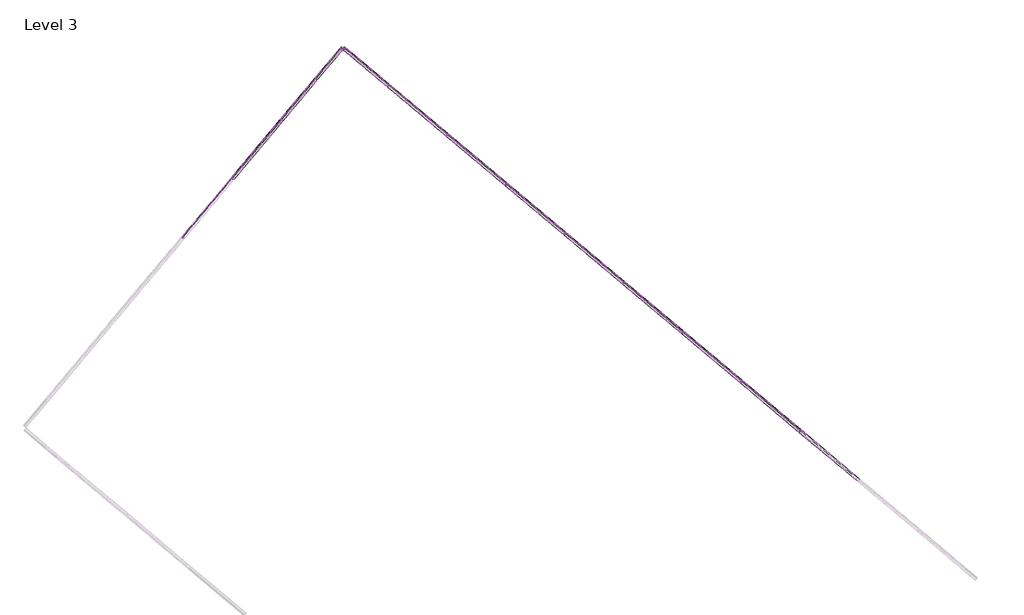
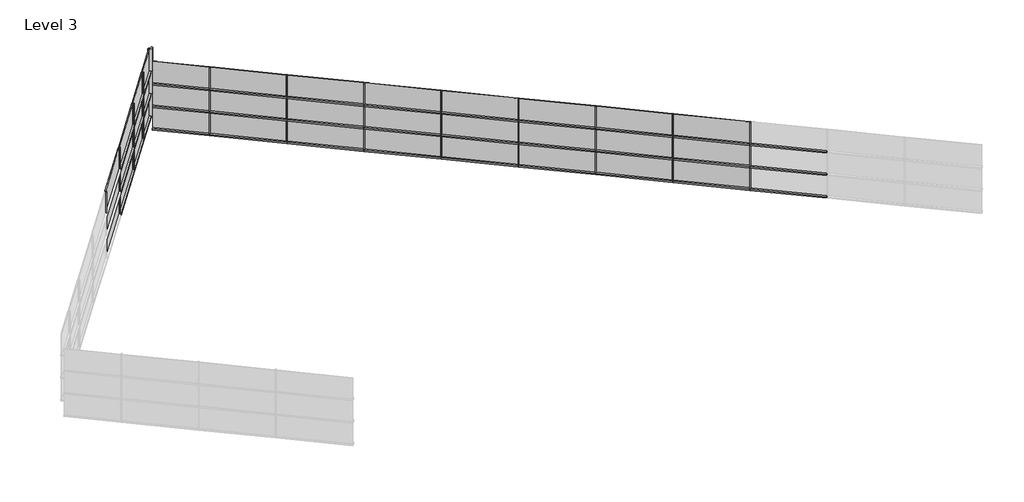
# One storey, part 4 of 4: 73 members, 36 plates.
"""IFC4 building model written with IfcOpenShell, lengths in millimetres."""

from ifc_helpers import new_model, si_unit, origin, place, context, project, spatial, transform, mapped, element, save
from components import member_e6b937b8, member_eaba9652, member_7cbddb58, member_117cba67, member_8e78e238, member_387caf8a, system_panel_glazed_a2c5a472, system_panel_glazed_ccf48815, system_panel_glazed_3c43611c, system_panel_glazed_c349e88e

model = new_model("IFC4")

# Units and contexts
model_context = context("Model", 3, world=origin())
ifc_project = project(units=[si_unit("LENGTHUNIT", "METRE", prefix="MILLI")], contexts=[model_context])

# Site, building, storey
site = spatial("IfcSite", under=ifc_project)
building = spatial("IfcBuilding", under=site)
storey = spatial("IfcBuildingStorey", under=building, Name="Level 3", Elevation=6096.0)

# Members
placement = place(None, origin())
member_shape = member_e6b937b8(model_context)
element("IfcMember", 1, ObjectType="Rectangular Mullion : 1.5\" x 2.5\" rectangular", at=placement, inside=storey, context=model_context, shape_type="MappedRepresentation", body=[
    mapped(member_shape, transform((-52757.790291, 39973.585519, 9954.4974171), x_axis=(0.6427876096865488, 0.7660444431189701, 0.0), y_axis=(-0.7660444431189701, 0.6427876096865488, 0.0), z_axis=(0.0, 0.0, 1.0))),
])
element("IfcMember", 2, ObjectType="Rectangular Mullion : 1.5\" x 2.5\" rectangular", at=placement, inside=storey, context=model_context, shape_type="MappedRepresentation", body=[
    mapped(member_shape, transform((-50798.5736567, 42308.4889816, 7820.8974171), x_axis=(0.6427876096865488, 0.7660444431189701, 0.0), y_axis=(-0.7660444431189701, 0.6427876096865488, 0.0), z_axis=(0.0, 0.0, 1.0))),
])
element("IfcMember", 3, ObjectType="Rectangular Mullion : 1.5\" x 2.5\" rectangular", at=placement, inside=storey, context=model_context, shape_type="MappedRepresentation", body=[
    mapped(member_shape, transform((-48839.3570224, 44643.3924442, 7820.8974171), x_axis=(0.6427876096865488, 0.7660444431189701, 0.0), y_axis=(-0.7660444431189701, 0.6427876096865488, 0.0), z_axis=(0.0, 0.0, 1.0))),
])
element("IfcMember", 4, ObjectType="Rectangular Mullion : 1.5\" x 2.5\" rectangular", at=placement, inside=storey, context=model_context, shape_type="MappedRepresentation", body=[
    mapped(member_shape, transform((-50798.5736567, 42308.4889816, 8887.6974171), x_axis=(0.6427876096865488, 0.7660444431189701, 0.0), y_axis=(-0.7660444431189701, 0.6427876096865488, 0.0), z_axis=(0.0, 0.0, 1.0))),
])
element("IfcMember", 5, ObjectType="Rectangular Mullion : 1.5\" x 2.5\" rectangular", at=placement, inside=storey, context=model_context, shape_type="MappedRepresentation", body=[
    mapped(member_shape, transform((-48839.3570224, 44643.3924442, 8887.6974171), x_axis=(0.6427876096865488, 0.7660444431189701, 0.0), y_axis=(-0.7660444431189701, 0.6427876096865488, 0.0), z_axis=(0.0, 0.0, 1.0))),
])
element("IfcMember", 6, ObjectType="Rectangular Mullion : 1.5\" x 2.5\" rectangular", at=placement, inside=storey, context=model_context, shape_type="MappedRepresentation", body=[
    mapped(member_shape, transform((-50798.5736567, 42308.4889816, 9954.4974171), x_axis=(0.6427876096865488, 0.7660444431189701, 0.0), y_axis=(-0.7660444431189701, 0.6427876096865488, 0.0), z_axis=(0.0, 0.0, 1.0))),
])
element("IfcMember", 7, ObjectType="Rectangular Mullion : 1.5\" x 2.5\" rectangular", at=placement, inside=storey, context=model_context, shape_type="MappedRepresentation", body=[
    mapped(member_shape, transform((-48839.3570224, 44643.3924442, 9954.4974171), x_axis=(0.6427876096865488, 0.7660444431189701, 0.0), y_axis=(-0.7660444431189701, 0.6427876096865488, 0.0), z_axis=(0.0, 0.0, 1.0))),
])
element("IfcMember", 8, ObjectType="Rectangular Mullion : 1.5\" x 2.5\" rectangular", at=placement, inside=storey, context=model_context, shape_type="MappedRepresentation", body=[
    mapped(member_shape, transform((-44606.1504378, 46018.2846161, 7200.3444177), x_axis=(0.76604444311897, -0.6427876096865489, 0.0), y_axis=(0.6427876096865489, 0.76604444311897, 0.0), z_axis=(0.0, 0.0, 1.0))),
])
element("IfcMember", 9, ObjectType="Rectangular Mullion : 1.5\" x 2.5\" rectangular", at=placement, inside=storey, context=model_context, shape_type="MappedRepresentation", body=[
    mapped(member_shape, transform((-42271.2469751, 44059.0679818, 7200.3444177), x_axis=(0.76604444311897, -0.6427876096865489, 0.0), y_axis=(0.6427876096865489, 0.76604444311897, 0.0), z_axis=(0.0, 0.0, 1.0))),
])
element("IfcMember", 10, ObjectType="Rectangular Mullion : 1.5\" x 2.5\" rectangular", at=placement, inside=storey, context=model_context, shape_type="MappedRepresentation", body=[
    mapped(member_shape, transform((-39936.3435125, 42099.8513475, 7200.3444177), x_axis=(0.76604444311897, -0.6427876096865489, 0.0), y_axis=(0.6427876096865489, 0.76604444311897, 0.0), z_axis=(0.0, 0.0, 1.0))),
])
element("IfcMember", 11, ObjectType="Rectangular Mullion : 1.5\" x 2.5\" rectangular", at=placement, inside=storey, context=model_context, shape_type="MappedRepresentation", body=[
    mapped(member_shape, transform((-37601.4400499, 40140.6347131, 7200.3444177), x_axis=(0.76604444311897, -0.6427876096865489, 0.0), y_axis=(0.6427876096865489, 0.76604444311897, 0.0), z_axis=(0.0, 0.0, 1.0))),
])
element("IfcMember", 12, ObjectType="Rectangular Mullion : 1.5\" x 2.5\" rectangular", at=placement, inside=storey, context=model_context, shape_type="MappedRepresentation", body=[
    mapped(member_shape, transform((-35266.5365873, 38181.4180788, 7200.3444177), x_axis=(0.76604444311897, -0.6427876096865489, 0.0), y_axis=(0.6427876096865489, 0.76604444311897, 0.0), z_axis=(0.0, 0.0, 1.0))),
])
element("IfcMember", 13, ObjectType="Rectangular Mullion : 1.5\" x 2.5\" rectangular", at=placement, inside=storey, context=model_context, shape_type="MappedRepresentation", body=[
    mapped(member_shape, transform((-32931.6331246, 36222.2014445, 7200.3444177), x_axis=(0.76604444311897, -0.6427876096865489, 0.0), y_axis=(0.6427876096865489, 0.76604444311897, 0.0), z_axis=(0.0, 0.0, 1.0))),
])
element("IfcMember", 14, ObjectType="Rectangular Mullion : 1.5\" x 2.5\" rectangular", at=placement, inside=storey, context=model_context, shape_type="MappedRepresentation", body=[
    mapped(member_shape, transform((-30596.729662, 34262.9848102, 7200.3444177), x_axis=(0.76604444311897, -0.6427876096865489, 0.0), y_axis=(0.6427876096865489, 0.76604444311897, 0.0), z_axis=(0.0, 0.0, 1.0))),
])
element("IfcMember", 15, ObjectType="Rectangular Mullion : 1.5\" x 2.5\" rectangular", at=placement, inside=storey, context=model_context, shape_type="MappedRepresentation", body=[
    mapped(member_shape, transform((-28261.8261994, 32303.7681758, 7200.3444177), x_axis=(0.76604444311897, -0.6427876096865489, 0.0), y_axis=(0.6427876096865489, 0.76604444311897, 0.0), z_axis=(0.0, 0.0, 1.0))),
])
element("IfcMember", 16, ObjectType="Rectangular Mullion : 1.5\" x 2.5\" rectangular", at=placement, inside=storey, context=model_context, shape_type="MappedRepresentation", body=[
    mapped(member_shape, transform((-44606.1504378, 46018.2846161, 8267.1444177), x_axis=(0.76604444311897, -0.6427876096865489, 0.0), y_axis=(0.6427876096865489, 0.76604444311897, 0.0), z_axis=(0.0, 0.0, 1.0))),
])
element("IfcMember", 17, ObjectType="Rectangular Mullion : 1.5\" x 2.5\" rectangular", at=placement, inside=storey, context=model_context, shape_type="MappedRepresentation", body=[
    mapped(member_shape, transform((-42271.2469751, 44059.0679818, 8267.1444177), x_axis=(0.76604444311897, -0.6427876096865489, 0.0), y_axis=(0.6427876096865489, 0.76604444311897, 0.0), z_axis=(0.0, 0.0, 1.0))),
])
element("IfcMember", 18, ObjectType="Rectangular Mullion : 1.5\" x 2.5\" rectangular", at=placement, inside=storey, context=model_context, shape_type="MappedRepresentation", body=[
    mapped(member_shape, transform((-39936.3435125, 42099.8513475, 8267.1444177), x_axis=(0.76604444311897, -0.6427876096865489, 0.0), y_axis=(0.6427876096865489, 0.76604444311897, 0.0), z_axis=(0.0, 0.0, 1.0))),
])
element("IfcMember", 19, ObjectType="Rectangular Mullion : 1.5\" x 2.5\" rectangular", at=placement, inside=storey, context=model_context, shape_type="MappedRepresentation", body=[
    mapped(member_shape, transform((-37601.4400499, 40140.6347131, 8267.1444177), x_axis=(0.76604444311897, -0.6427876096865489, 0.0), y_axis=(0.6427876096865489, 0.76604444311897, 0.0), z_axis=(0.0, 0.0, 1.0))),
])
element("IfcMember", 20, ObjectType="Rectangular Mullion : 1.5\" x 2.5\" rectangular", at=placement, inside=storey, context=model_context, shape_type="MappedRepresentation", body=[
    mapped(member_shape, transform((-35266.5365873, 38181.4180788, 8267.1444177), x_axis=(0.76604444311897, -0.6427876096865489, 0.0), y_axis=(0.6427876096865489, 0.76604444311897, 0.0), z_axis=(0.0, 0.0, 1.0))),
])
element("IfcMember", 21, ObjectType="Rectangular Mullion : 1.5\" x 2.5\" rectangular", at=placement, inside=storey, context=model_context, shape_type="MappedRepresentation", body=[
    mapped(member_shape, transform((-32931.6331246, 36222.2014445, 8267.1444177), x_axis=(0.76604444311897, -0.6427876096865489, 0.0), y_axis=(0.6427876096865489, 0.76604444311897, 0.0), z_axis=(0.0, 0.0, 1.0))),
])
element("IfcMember", 22, ObjectType="Rectangular Mullion : 1.5\" x 2.5\" rectangular", at=placement, inside=storey, context=model_context, shape_type="MappedRepresentation", body=[
    mapped(member_shape, transform((-30596.729662, 34262.9848102, 8267.1444177), x_axis=(0.76604444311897, -0.6427876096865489, 0.0), y_axis=(0.6427876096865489, 0.76604444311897, 0.0), z_axis=(0.0, 0.0, 1.0))),
])
element("IfcMember", 23, ObjectType="Rectangular Mullion : 1.5\" x 2.5\" rectangular", at=placement, inside=storey, context=model_context, shape_type="MappedRepresentation", body=[
    mapped(member_shape, transform((-28261.8261994, 32303.7681758, 8267.1444177), x_axis=(0.76604444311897, -0.6427876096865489, 0.0), y_axis=(0.6427876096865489, 0.76604444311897, 0.0), z_axis=(0.0, 0.0, 1.0))),
])
element("IfcMember", 24, ObjectType="Rectangular Mullion : 1.5\" x 2.5\" rectangular", at=placement, inside=storey, context=model_context, shape_type="MappedRepresentation", body=[
    mapped(member_shape, transform((-44606.1504378, 46018.2846161, 9333.9444177), x_axis=(0.76604444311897, -0.6427876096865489, 0.0), y_axis=(0.6427876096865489, 0.76604444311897, 0.0), z_axis=(0.0, 0.0, 1.0))),
])
element("IfcMember", 25, ObjectType="Rectangular Mullion : 1.5\" x 2.5\" rectangular", at=placement, inside=storey, context=model_context, shape_type="MappedRepresentation", body=[
    mapped(member_shape, transform((-42271.2469751, 44059.0679818, 9333.9444177), x_axis=(0.76604444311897, -0.6427876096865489, 0.0), y_axis=(0.6427876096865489, 0.76604444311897, 0.0), z_axis=(0.0, 0.0, 1.0))),
])
element("IfcMember", 26, ObjectType="Rectangular Mullion : 1.5\" x 2.5\" rectangular", at=placement, inside=storey, context=model_context, shape_type="MappedRepresentation", body=[
    mapped(member_shape, transform((-39936.3435125, 42099.8513475, 9333.9444177), x_axis=(0.76604444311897, -0.6427876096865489, 0.0), y_axis=(0.6427876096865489, 0.76604444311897, 0.0), z_axis=(0.0, 0.0, 1.0))),
])
element("IfcMember", 27, ObjectType="Rectangular Mullion : 1.5\" x 2.5\" rectangular", at=placement, inside=storey, context=model_context, shape_type="MappedRepresentation", body=[
    mapped(member_shape, transform((-37601.4400499, 40140.6347131, 9333.9444177), x_axis=(0.76604444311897, -0.6427876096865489, 0.0), y_axis=(0.6427876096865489, 0.76604444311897, 0.0), z_axis=(0.0, 0.0, 1.0))),
])
element("IfcMember", 28, ObjectType="Rectangular Mullion : 1.5\" x 2.5\" rectangular", at=placement, inside=storey, context=model_context, shape_type="MappedRepresentation", body=[
    mapped(member_shape, transform((-35266.5365873, 38181.4180788, 9333.9444177), x_axis=(0.76604444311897, -0.6427876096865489, 0.0), y_axis=(0.6427876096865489, 0.76604444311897, 0.0), z_axis=(0.0, 0.0, 1.0))),
])
element("IfcMember", 29, ObjectType="Rectangular Mullion : 1.5\" x 2.5\" rectangular", at=placement, inside=storey, context=model_context, shape_type="MappedRepresentation", body=[
    mapped(member_shape, transform((-32931.6331246, 36222.2014445, 9333.9444177), x_axis=(0.76604444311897, -0.6427876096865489, 0.0), y_axis=(0.6427876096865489, 0.76604444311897, 0.0), z_axis=(0.0, 0.0, 1.0))),
])
element("IfcMember", 30, ObjectType="Rectangular Mullion : 1.5\" x 2.5\" rectangular", at=placement, inside=storey, context=model_context, shape_type="MappedRepresentation", body=[
    mapped(member_shape, transform((-30596.729662, 34262.9848102, 9333.9444177), x_axis=(0.76604444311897, -0.6427876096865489, 0.0), y_axis=(0.6427876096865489, 0.76604444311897, 0.0), z_axis=(0.0, 0.0, 1.0))),
])
element("IfcMember", 31, ObjectType="Rectangular Mullion : 1.5\" x 2.5\" rectangular", at=placement, inside=storey, context=model_context, shape_type="MappedRepresentation", body=[
    mapped(member_shape, transform((-28261.8261994, 32303.7681758, 9333.9444177), x_axis=(0.76604444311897, -0.6427876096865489, 0.0), y_axis=(0.6427876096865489, 0.76604444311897, 0.0), z_axis=(0.0, 0.0, 1.0))),
])
element("IfcMember", 32, ObjectType="Rectangular Mullion : 1.5\" x 2.5\" rectangular", at=placement, inside=storey, context=model_context, shape_type="MappedRepresentation", body=[
    mapped(member_shape, transform((-47467.9053784, 46277.8248681, 7820.8974171), x_axis=(0.6427876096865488, 0.7660444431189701, 0.0), y_axis=(-0.7660444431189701, 0.6427876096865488, 0.0), z_axis=(0.0, 0.0, 1.0))),
])
element("IfcMember", 33, ObjectType="Rectangular Mullion : 1.5\" x 2.5\" rectangular", at=placement, inside=storey, context=model_context, shape_type="MappedRepresentation", body=[
    mapped(member_shape, transform((-47467.9053784, 46277.8248681, 8887.6974171), x_axis=(0.6427876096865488, 0.7660444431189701, 0.0), y_axis=(-0.7660444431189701, 0.6427876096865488, 0.0), z_axis=(0.0, 0.0, 1.0))),
])
element("IfcMember", 34, ObjectType="Rectangular Mullion : 1.5\" x 2.5\" rectangular", at=placement, inside=storey, context=model_context, shape_type="MappedRepresentation", body=[
    mapped(member_shape, transform((-47467.9053784, 46277.8248681, 9954.4974171), x_axis=(0.6427876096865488, 0.7660444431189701, 0.0), y_axis=(-0.7660444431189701, 0.6427876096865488, 0.0), z_axis=(0.0, 0.0, 1.0))),
])
member_2_shape = member_eaba9652(model_context)
element("IfcMember", 35, ObjectType="Rectangular Mullion : 2.5\" x 5\" rectangular", at=placement, inside=storey, context=model_context, shape_type="MappedRepresentation", body=[
    mapped(member_2_shape, transform((-50798.5736567, 42308.4889816, 6785.8474171), x_axis=(0.0, 0.0, 1.0), y_axis=(-0.766044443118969, 0.64278760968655, 0.0), z_axis=(-0.64278760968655, -0.766044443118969, 0.0))),
])
element("IfcMember", 36, ObjectType="Rectangular Mullion : 2.5\" x 5\" rectangular", at=placement, inside=storey, context=model_context, shape_type="MappedRepresentation", body=[
    mapped(member_2_shape, transform((-50798.5736567, 42308.4889816, 7852.6474171), x_axis=(0.0, 0.0, 1.0), y_axis=(-0.766044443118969, 0.64278760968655, 0.0), z_axis=(-0.64278760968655, -0.766044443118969, 0.0))),
])
element("IfcMember", 37, ObjectType="Rectangular Mullion : 2.5\" x 5\" rectangular", at=placement, inside=storey, context=model_context, shape_type="MappedRepresentation", body=[
    mapped(member_2_shape, transform((-50798.5736567, 42308.4889816, 8919.4474171), x_axis=(0.0, 0.0, 1.0), y_axis=(-0.766044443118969, 0.64278760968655, 0.0), z_axis=(-0.64278760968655, -0.766044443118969, 0.0))),
])
element("IfcMember", 38, ObjectType="Rectangular Mullion : 2.5\" x 5\" rectangular", at=placement, inside=storey, context=model_context, shape_type="MappedRepresentation", body=[
    mapped(member_2_shape, transform((-44606.1504378, 46018.2846161, 6165.2944177), x_axis=(0.0, 0.0, 1.0), y_axis=(0.6427876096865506, 0.7660444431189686, 0.0), z_axis=(-0.7660444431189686, 0.6427876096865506, 0.0))),
])
element("IfcMember", 39, ObjectType="Rectangular Mullion : 2.5\" x 5\" rectangular", at=placement, inside=storey, context=model_context, shape_type="MappedRepresentation", body=[
    mapped(member_2_shape, transform((-42271.2469751, 44059.0679818, 6165.2944177), x_axis=(0.0, 0.0, 1.0), y_axis=(0.6427876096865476, 0.7660444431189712, 0.0), z_axis=(-0.7660444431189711, 0.6427876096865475, 0.0))),
])
element("IfcMember", 40, ObjectType="Rectangular Mullion : 2.5\" x 5\" rectangular", at=placement, inside=storey, context=model_context, shape_type="MappedRepresentation", body=[
    mapped(member_2_shape, transform((-39936.3435125, 42099.8513475, 6165.2944177), x_axis=(0.0, 0.0, 1.0), y_axis=(0.6427876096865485, 0.7660444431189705, 0.0), z_axis=(-0.7660444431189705, 0.6427876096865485, 0.0))),
])
element("IfcMember", 41, ObjectType="Rectangular Mullion : 2.5\" x 5\" rectangular", at=placement, inside=storey, context=model_context, shape_type="MappedRepresentation", body=[
    mapped(member_2_shape, transform((-37601.4400499, 40140.6347131, 6165.2944177), x_axis=(0.0, 0.0, 1.0), y_axis=(0.642787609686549, 0.76604444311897, 0.0), z_axis=(-0.7660444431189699, 0.6427876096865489, 0.0))),
])
element("IfcMember", 42, ObjectType="Rectangular Mullion : 2.5\" x 5\" rectangular", at=placement, inside=storey, context=model_context, shape_type="MappedRepresentation", body=[
    mapped(member_2_shape, transform((-35266.5365873, 38181.4180788, 6165.2944177), x_axis=(0.0, 0.0, 1.0), y_axis=(0.6427876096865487, 0.7660444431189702, 0.0), z_axis=(-0.7660444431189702, 0.6427876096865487, 0.0))),
])
element("IfcMember", 43, ObjectType="Rectangular Mullion : 2.5\" x 5\" rectangular", at=placement, inside=storey, context=model_context, shape_type="MappedRepresentation", body=[
    mapped(member_2_shape, transform((-32931.6331246, 36222.2014445, 6165.2944177), x_axis=(0.0, 0.0, 1.0), y_axis=(0.6427876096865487, 0.7660444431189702, 0.0), z_axis=(-0.7660444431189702, 0.6427876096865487, 0.0))),
])
element("IfcMember", 44, ObjectType="Rectangular Mullion : 2.5\" x 5\" rectangular", at=placement, inside=storey, context=model_context, shape_type="MappedRepresentation", body=[
    mapped(member_2_shape, transform((-30596.729662, 34262.9848102, 6165.2944177), x_axis=(0.0, 0.0, 1.0), y_axis=(0.6427876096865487, 0.7660444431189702, 0.0), z_axis=(-0.7660444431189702, 0.6427876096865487, 0.0))),
])
element("IfcMember", 45, ObjectType="Rectangular Mullion : 2.5\" x 5\" rectangular", at=placement, inside=storey, context=model_context, shape_type="MappedRepresentation", body=[
    mapped(member_2_shape, transform((-28261.8261994, 32303.7681758, 6165.2944177), x_axis=(0.0, 0.0, 1.0), y_axis=(0.6427876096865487, 0.7660444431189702, 0.0), z_axis=(-0.7660444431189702, 0.6427876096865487, 0.0))),
])
element("IfcMember", 46, ObjectType="Rectangular Mullion : 2.5\" x 5\" rectangular", at=placement, inside=storey, context=model_context, shape_type="MappedRepresentation", body=[
    mapped(member_2_shape, transform((-44606.1504378, 46018.2846161, 7232.0944177), x_axis=(0.0, 0.0, 1.0), y_axis=(0.6427876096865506, 0.7660444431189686, 0.0), z_axis=(-0.7660444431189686, 0.6427876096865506, 0.0))),
])
element("IfcMember", 47, ObjectType="Rectangular Mullion : 2.5\" x 5\" rectangular", at=placement, inside=storey, context=model_context, shape_type="MappedRepresentation", body=[
    mapped(member_2_shape, transform((-42271.2469751, 44059.0679818, 7232.0944177), x_axis=(0.0, 0.0, 1.0), y_axis=(0.6427876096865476, 0.7660444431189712, 0.0), z_axis=(-0.7660444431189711, 0.6427876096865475, 0.0))),
])
element("IfcMember", 48, ObjectType="Rectangular Mullion : 2.5\" x 5\" rectangular", at=placement, inside=storey, context=model_context, shape_type="MappedRepresentation", body=[
    mapped(member_2_shape, transform((-39936.3435125, 42099.8513475, 7232.0944177), x_axis=(0.0, 0.0, 1.0), y_axis=(0.6427876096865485, 0.7660444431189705, 0.0), z_axis=(-0.7660444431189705, 0.6427876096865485, 0.0))),
])
element("IfcMember", 49, ObjectType="Rectangular Mullion : 2.5\" x 5\" rectangular", at=placement, inside=storey, context=model_context, shape_type="MappedRepresentation", body=[
    mapped(member_2_shape, transform((-37601.4400499, 40140.6347131, 7232.0944177), x_axis=(0.0, 0.0, 1.0), y_axis=(0.642787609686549, 0.76604444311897, 0.0), z_axis=(-0.7660444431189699, 0.6427876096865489, 0.0))),
])
element("IfcMember", 50, ObjectType="Rectangular Mullion : 2.5\" x 5\" rectangular", at=placement, inside=storey, context=model_context, shape_type="MappedRepresentation", body=[
    mapped(member_2_shape, transform((-35266.5365873, 38181.4180788, 7232.0944177), x_axis=(0.0, 0.0, 1.0), y_axis=(0.6427876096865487, 0.7660444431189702, 0.0), z_axis=(-0.7660444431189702, 0.6427876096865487, 0.0))),
])
element("IfcMember", 51, ObjectType="Rectangular Mullion : 2.5\" x 5\" rectangular", at=placement, inside=storey, context=model_context, shape_type="MappedRepresentation", body=[
    mapped(member_2_shape, transform((-32931.6331246, 36222.2014445, 7232.0944177), x_axis=(0.0, 0.0, 1.0), y_axis=(0.642787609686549, 0.76604444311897, 0.0), z_axis=(-0.7660444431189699, 0.6427876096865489, 0.0))),
])
element("IfcMember", 52, ObjectType="Rectangular Mullion : 2.5\" x 5\" rectangular", at=placement, inside=storey, context=model_context, shape_type="MappedRepresentation", body=[
    mapped(member_2_shape, transform((-30596.729662, 34262.9848102, 7232.0944177), x_axis=(0.0, 0.0, 1.0), y_axis=(0.6427876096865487, 0.7660444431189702, 0.0), z_axis=(-0.7660444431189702, 0.6427876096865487, 0.0))),
])
element("IfcMember", 53, ObjectType="Rectangular Mullion : 2.5\" x 5\" rectangular", at=placement, inside=storey, context=model_context, shape_type="MappedRepresentation", body=[
    mapped(member_2_shape, transform((-28261.8261994, 32303.7681758, 7232.0944177), x_axis=(0.0, 0.0, 1.0), y_axis=(0.6427876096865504, 0.7660444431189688, 0.0), z_axis=(-0.7660444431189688, 0.6427876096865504, 0.0))),
])
element("IfcMember", 54, ObjectType="Rectangular Mullion : 2.5\" x 5\" rectangular", at=placement, inside=storey, context=model_context, shape_type="MappedRepresentation", body=[
    mapped(member_2_shape, transform((-44606.1504378, 46018.2846161, 8298.8944177), x_axis=(0.0, 0.0, 1.0), y_axis=(0.6427876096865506, 0.7660444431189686, 0.0), z_axis=(-0.7660444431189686, 0.6427876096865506, 0.0))),
])
element("IfcMember", 55, ObjectType="Rectangular Mullion : 2.5\" x 5\" rectangular", at=placement, inside=storey, context=model_context, shape_type="MappedRepresentation", body=[
    mapped(member_2_shape, transform((-42271.2469751, 44059.0679818, 8298.8944177), x_axis=(0.0, 0.0, 1.0), y_axis=(0.6427876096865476, 0.7660444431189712, 0.0), z_axis=(-0.7660444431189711, 0.6427876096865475, 0.0))),
])
element("IfcMember", 56, ObjectType="Rectangular Mullion : 2.5\" x 5\" rectangular", at=placement, inside=storey, context=model_context, shape_type="MappedRepresentation", body=[
    mapped(member_2_shape, transform((-39936.3435125, 42099.8513475, 8298.8944177), x_axis=(0.0, 0.0, 1.0), y_axis=(0.6427876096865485, 0.7660444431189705, 0.0), z_axis=(-0.7660444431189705, 0.6427876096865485, 0.0))),
])
element("IfcMember", 57, ObjectType="Rectangular Mullion : 2.5\" x 5\" rectangular", at=placement, inside=storey, context=model_context, shape_type="MappedRepresentation", body=[
    mapped(member_2_shape, transform((-37601.4400499, 40140.6347131, 8298.8944177), x_axis=(0.0, 0.0, 1.0), y_axis=(0.642787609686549, 0.76604444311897, 0.0), z_axis=(-0.7660444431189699, 0.6427876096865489, 0.0))),
])
element("IfcMember", 58, ObjectType="Rectangular Mullion : 2.5\" x 5\" rectangular", at=placement, inside=storey, context=model_context, shape_type="MappedRepresentation", body=[
    mapped(member_2_shape, transform((-35266.5365873, 38181.4180788, 8298.8944177), x_axis=(0.0, 0.0, 1.0), y_axis=(0.6427876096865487, 0.7660444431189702, 0.0), z_axis=(-0.7660444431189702, 0.6427876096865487, 0.0))),
])
element("IfcMember", 59, ObjectType="Rectangular Mullion : 2.5\" x 5\" rectangular", at=placement, inside=storey, context=model_context, shape_type="MappedRepresentation", body=[
    mapped(member_2_shape, transform((-32931.6331246, 36222.2014445, 8298.8944177), x_axis=(0.0, 0.0, 1.0), y_axis=(0.6427876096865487, 0.7660444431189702, 0.0), z_axis=(-0.7660444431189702, 0.6427876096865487, 0.0))),
])
element("IfcMember", 60, ObjectType="Rectangular Mullion : 2.5\" x 5\" rectangular", at=placement, inside=storey, context=model_context, shape_type="MappedRepresentation", body=[
    mapped(member_2_shape, transform((-30596.729662, 34262.9848102, 8298.8944177), x_axis=(0.0, 0.0, 1.0), y_axis=(0.6427876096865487, 0.7660444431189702, 0.0), z_axis=(-0.7660444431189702, 0.6427876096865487, 0.0))),
])
element("IfcMember", 61, ObjectType="Rectangular Mullion : 2.5\" x 5\" rectangular", at=placement, inside=storey, context=model_context, shape_type="MappedRepresentation", body=[
    mapped(member_2_shape, transform((-28261.8261994, 32303.7681758, 8298.8944177), x_axis=(0.0, 0.0, 1.0), y_axis=(0.6427876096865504, 0.7660444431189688, 0.0), z_axis=(-0.7660444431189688, 0.6427876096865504, 0.0))),
])
member_3_shape = member_7cbddb58(model_context)
element("IfcMember", 62, ObjectType="Rectangular Mullion : 2.5\" x 5\" rectangular", at=placement, inside=storey, context=model_context, shape_type="MappedRepresentation", body=[
    mapped(member_3_shape, transform((-48839.3570224, 44643.3924442, 6785.8474171), x_axis=(0.0, 0.0, 1.0), y_axis=(-0.766044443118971, 0.6427876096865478, 0.0), z_axis=(-0.6427876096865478, -0.766044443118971, 0.0))),
])
element("IfcMember", 63, ObjectType="Rectangular Mullion : 2.5\" x 5\" rectangular", at=placement, inside=storey, context=model_context, shape_type="MappedRepresentation", body=[
    mapped(member_3_shape, transform((-48839.3570224, 44643.3924442, 7852.6474171), x_axis=(0.0, 0.0, 1.0), y_axis=(-0.766044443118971, 0.6427876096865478, 0.0), z_axis=(-0.6427876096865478, -0.766044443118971, 0.0))),
])
element("IfcMember", 64, ObjectType="Rectangular Mullion : 2.5\" x 5\" rectangular", at=placement, inside=storey, context=model_context, shape_type="MappedRepresentation", body=[
    mapped(member_3_shape, transform((-48839.3570224, 44643.3924442, 8919.4474171), x_axis=(0.0, 0.0, 1.0), y_axis=(-0.766044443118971, 0.6427876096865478, 0.0), z_axis=(-0.6427876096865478, -0.766044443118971, 0.0))),
])
member_4_shape = member_117cba67(model_context)
element("IfcMember", 65, ObjectType="Rectangular Mullion : 2.5\" x 5\" rectangular", at=placement, inside=storey, context=model_context, shape_type="MappedRepresentation", body=[
    mapped(member_4_shape, transform((-47467.9053784, 46277.8248681, 6785.8474171), x_axis=(0.0, 0.0, 1.0), y_axis=(-0.7660444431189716, 0.6427876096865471, 0.0), z_axis=(-0.6427876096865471, -0.7660444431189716, 0.0))),
])
element("IfcMember", 66, ObjectType="Rectangular Mullion : 2.5\" x 5\" rectangular", at=placement, inside=storey, context=model_context, shape_type="MappedRepresentation", body=[
    mapped(member_4_shape, transform((-47467.9053784, 46277.8248681, 7852.6474171), x_axis=(0.0, 0.0, 1.0), y_axis=(-0.7660444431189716, 0.6427876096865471, 0.0), z_axis=(-0.6427876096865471, -0.7660444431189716, 0.0))),
])
element("IfcMember", 67, ObjectType="Rectangular Mullion : 2.5\" x 5\" rectangular", at=placement, inside=storey, context=model_context, shape_type="MappedRepresentation", body=[
    mapped(member_4_shape, transform((-47467.9053784, 46277.8248681, 8919.4474171), x_axis=(0.0, 0.0, 1.0), y_axis=(-0.7660444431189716, 0.6427876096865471, 0.0), z_axis=(-0.6427876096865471, -0.7660444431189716, 0.0))),
])
member_5_shape = member_8e78e238(model_context)
element("IfcMember", 68, ObjectType="Rectangular Mullion : 2.5\" x 5\" rectangular", at=placement, inside=storey, context=model_context, shape_type="MappedRepresentation", body=[
    mapped(member_5_shape, transform((-46340.3300662, 47473.4341027, 6165.2944177), x_axis=(0.0, 0.0, 1.0), y_axis=(0.6427876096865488, 0.76604444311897, 0.0), z_axis=(-0.76604444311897, 0.6427876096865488, 0.0))),
])
element("IfcMember", 69, ObjectType="Rectangular Mullion : 2.5\" x 5\" rectangular", at=placement, inside=storey, context=model_context, shape_type="MappedRepresentation", body=[
    mapped(member_5_shape, transform((-46340.3300662, 47473.4341027, 7232.0944177), x_axis=(0.0, 0.0, 1.0), y_axis=(0.6427876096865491, 0.7660444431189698, 0.0), z_axis=(-0.7660444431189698, 0.6427876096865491, 0.0))),
])
element("IfcMember", 70, ObjectType="Rectangular Mullion : 2.5\" x 5\" rectangular", at=placement, inside=storey, context=model_context, shape_type="MappedRepresentation", body=[
    mapped(member_5_shape, transform((-46340.3300662, 47473.4341027, 8298.8944177), x_axis=(0.0, 0.0, 1.0), y_axis=(0.6427876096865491, 0.7660444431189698, 0.0), z_axis=(-0.7660444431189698, 0.6427876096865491, 0.0))),
])
member_6_shape = member_387caf8a(model_context)
element("IfcMember", 71, ObjectType="V Corner Mullion : 5\" V Corner", at=placement, inside=storey, context=model_context, shape_type="MappedRepresentation", body=[
    mapped(member_6_shape, transform((-46413.2957994, 47534.6596226, 7852.6474171), x_axis=(0.6427876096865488, 0.7660444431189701, 0.0), y_axis=(-0.7660444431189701, 0.6427876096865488, 0.0), z_axis=(0.0, 0.0, 1.0))),
])
element("IfcMember", 72, ObjectType="V Corner Mullion : 5\" V Corner", at=placement, inside=storey, context=model_context, shape_type="MappedRepresentation", body=[
    mapped(member_6_shape, transform((-46413.2957994, 47534.6596226, 8919.4474171), x_axis=(0.6427876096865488, 0.7660444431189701, 0.0), y_axis=(-0.7660444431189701, 0.6427876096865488, 0.0), z_axis=(0.0, 0.0, 1.0))),
])
element("IfcMember", 73, ObjectType="V Corner Mullion : 5\" V Corner", at=placement, inside=storey, context=model_context, shape_type="MappedRepresentation", body=[
    mapped(member_6_shape, transform((-46413.2957994, 47534.6596226, 9986.2474171), x_axis=(0.6427876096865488, 0.7660444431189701, 0.0), y_axis=(-0.7660444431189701, 0.6427876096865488, 0.0), z_axis=(0.0, 0.0, 1.0))),
])

# Plates
system_panel_glazed_shape = system_panel_glazed_a2c5a472(model_context)
element("IfcPlate", 74, ObjectType="System Panel : Glazed", at=placement, inside=storey, context=model_context, shape_type="MappedRepresentation", body=[
    mapped(system_panel_glazed_shape, transform((-43438.6987064, 45038.6762989, 6197.0444177), x_axis=(0.76604444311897, -0.6427876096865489, 0.0), y_axis=(0.6427876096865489, 0.76604444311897, 0.0), z_axis=(0.0, 0.0, 1.0))),
])
element("IfcPlate", 75, ObjectType="System Panel : Glazed", at=placement, inside=storey, context=model_context, shape_type="MappedRepresentation", body=[
    mapped(system_panel_glazed_shape, transform((-41103.7952438, 43079.4596646, 6197.0444177), x_axis=(0.76604444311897, -0.6427876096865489, 0.0), y_axis=(0.6427876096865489, 0.76604444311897, 0.0), z_axis=(0.0, 0.0, 1.0))),
])
element("IfcPlate", 76, ObjectType="System Panel : Glazed", at=placement, inside=storey, context=model_context, shape_type="MappedRepresentation", body=[
    mapped(system_panel_glazed_shape, transform((-38768.8917812, 41120.2430303, 6197.0444177), x_axis=(0.76604444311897, -0.6427876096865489, 0.0), y_axis=(0.6427876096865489, 0.76604444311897, 0.0), z_axis=(0.0, 0.0, 1.0))),
])
element("IfcPlate", 77, ObjectType="System Panel : Glazed", at=placement, inside=storey, context=model_context, shape_type="MappedRepresentation", body=[
    mapped(system_panel_glazed_shape, transform((-36433.9883186, 39161.026396, 6197.0444177), x_axis=(0.76604444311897, -0.6427876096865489, 0.0), y_axis=(0.6427876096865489, 0.76604444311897, 0.0), z_axis=(0.0, 0.0, 1.0))),
])
element("IfcPlate", 78, ObjectType="System Panel : Glazed", at=placement, inside=storey, context=model_context, shape_type="MappedRepresentation", body=[
    mapped(system_panel_glazed_shape, transform((-34099.0848559, 37201.8097616, 6197.0444177), x_axis=(0.76604444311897, -0.6427876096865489, 0.0), y_axis=(0.6427876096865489, 0.76604444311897, 0.0), z_axis=(0.0, 0.0, 1.0))),
])
element("IfcPlate", 79, ObjectType="System Panel : Glazed", at=placement, inside=storey, context=model_context, shape_type="MappedRepresentation", body=[
    mapped(system_panel_glazed_shape, transform((-31764.1813933, 35242.5931273, 6197.0444177), x_axis=(0.76604444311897, -0.6427876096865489, 0.0), y_axis=(0.6427876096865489, 0.76604444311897, 0.0), z_axis=(0.0, 0.0, 1.0))),
])
element("IfcPlate", 80, ObjectType="System Panel : Glazed", at=placement, inside=storey, context=model_context, shape_type="MappedRepresentation", body=[
    mapped(system_panel_glazed_shape, transform((-29429.2779307, 33283.376493, 6197.0444177), x_axis=(0.76604444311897, -0.6427876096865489, 0.0), y_axis=(0.6427876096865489, 0.76604444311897, 0.0), z_axis=(0.0, 0.0, 1.0))),
])
element("IfcPlate", 81, ObjectType="System Panel : Glazed", at=placement, inside=storey, context=model_context, shape_type="MappedRepresentation", body=[
    mapped(system_panel_glazed_shape, transform((-43438.6987064, 45038.6762989, 7263.8444177), x_axis=(0.76604444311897, -0.6427876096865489, 0.0), y_axis=(0.6427876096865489, 0.76604444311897, 0.0), z_axis=(0.0, 0.0, 1.0))),
])
element("IfcPlate", 82, ObjectType="System Panel : Glazed", at=placement, inside=storey, context=model_context, shape_type="MappedRepresentation", body=[
    mapped(system_panel_glazed_shape, transform((-41103.7952438, 43079.4596646, 7263.8444177), x_axis=(0.76604444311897, -0.6427876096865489, 0.0), y_axis=(0.6427876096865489, 0.76604444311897, 0.0), z_axis=(0.0, 0.0, 1.0))),
])
element("IfcPlate", 83, ObjectType="System Panel : Glazed", at=placement, inside=storey, context=model_context, shape_type="MappedRepresentation", body=[
    mapped(system_panel_glazed_shape, transform((-38768.8917812, 41120.2430303, 7263.8444177), x_axis=(0.76604444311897, -0.6427876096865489, 0.0), y_axis=(0.6427876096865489, 0.76604444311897, 0.0), z_axis=(0.0, 0.0, 1.0))),
])
element("IfcPlate", 84, ObjectType="System Panel : Glazed", at=placement, inside=storey, context=model_context, shape_type="MappedRepresentation", body=[
    mapped(system_panel_glazed_shape, transform((-36433.9883186, 39161.026396, 7263.8444177), x_axis=(0.76604444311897, -0.6427876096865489, 0.0), y_axis=(0.6427876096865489, 0.76604444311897, 0.0), z_axis=(0.0, 0.0, 1.0))),
])
element("IfcPlate", 85, ObjectType="System Panel : Glazed", at=placement, inside=storey, context=model_context, shape_type="MappedRepresentation", body=[
    mapped(system_panel_glazed_shape, transform((-34099.0848559, 37201.8097616, 7263.8444177), x_axis=(0.76604444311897, -0.6427876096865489, 0.0), y_axis=(0.6427876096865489, 0.76604444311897, 0.0), z_axis=(0.0, 0.0, 1.0))),
])
element("IfcPlate", 86, ObjectType="System Panel : Glazed", at=placement, inside=storey, context=model_context, shape_type="MappedRepresentation", body=[
    mapped(system_panel_glazed_shape, transform((-31764.1813933, 35242.5931273, 7263.8444177), x_axis=(0.76604444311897, -0.6427876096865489, 0.0), y_axis=(0.6427876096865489, 0.76604444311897, 0.0), z_axis=(0.0, 0.0, 1.0))),
])
element("IfcPlate", 87, ObjectType="System Panel : Glazed", at=placement, inside=storey, context=model_context, shape_type="MappedRepresentation", body=[
    mapped(system_panel_glazed_shape, transform((-29429.2779307, 33283.376493, 7263.8444177), x_axis=(0.76604444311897, -0.6427876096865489, 0.0), y_axis=(0.6427876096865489, 0.76604444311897, 0.0), z_axis=(0.0, 0.0, 1.0))),
])
element("IfcPlate", 88, ObjectType="System Panel : Glazed", at=placement, inside=storey, context=model_context, shape_type="MappedRepresentation", body=[
    mapped(system_panel_glazed_shape, transform((-43438.6987064, 45038.6762989, 8330.6444177), x_axis=(0.76604444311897, -0.6427876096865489, 0.0), y_axis=(0.6427876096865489, 0.76604444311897, 0.0), z_axis=(0.0, 0.0, 1.0))),
])
element("IfcPlate", 89, ObjectType="System Panel : Glazed", at=placement, inside=storey, context=model_context, shape_type="MappedRepresentation", body=[
    mapped(system_panel_glazed_shape, transform((-41103.7952438, 43079.4596646, 8330.6444177), x_axis=(0.76604444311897, -0.6427876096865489, 0.0), y_axis=(0.6427876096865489, 0.76604444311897, 0.0), z_axis=(0.0, 0.0, 1.0))),
])
element("IfcPlate", 90, ObjectType="System Panel : Glazed", at=placement, inside=storey, context=model_context, shape_type="MappedRepresentation", body=[
    mapped(system_panel_glazed_shape, transform((-38768.8917812, 41120.2430303, 8330.6444177), x_axis=(0.76604444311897, -0.6427876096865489, 0.0), y_axis=(0.6427876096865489, 0.76604444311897, 0.0), z_axis=(0.0, 0.0, 1.0))),
])
element("IfcPlate", 91, ObjectType="System Panel : Glazed", at=placement, inside=storey, context=model_context, shape_type="MappedRepresentation", body=[
    mapped(system_panel_glazed_shape, transform((-36433.9883186, 39161.026396, 8330.6444177), x_axis=(0.76604444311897, -0.6427876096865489, 0.0), y_axis=(0.6427876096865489, 0.76604444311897, 0.0), z_axis=(0.0, 0.0, 1.0))),
])
element("IfcPlate", 92, ObjectType="System Panel : Glazed", at=placement, inside=storey, context=model_context, shape_type="MappedRepresentation", body=[
    mapped(system_panel_glazed_shape, transform((-34099.0848559, 37201.8097616, 8330.6444177), x_axis=(0.76604444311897, -0.6427876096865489, 0.0), y_axis=(0.6427876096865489, 0.76604444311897, 0.0), z_axis=(0.0, 0.0, 1.0))),
])
element("IfcPlate", 93, ObjectType="System Panel : Glazed", at=placement, inside=storey, context=model_context, shape_type="MappedRepresentation", body=[
    mapped(system_panel_glazed_shape, transform((-31764.1813933, 35242.5931273, 8330.6444177), x_axis=(0.76604444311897, -0.6427876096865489, 0.0), y_axis=(0.6427876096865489, 0.76604444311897, 0.0), z_axis=(0.0, 0.0, 1.0))),
])
element("IfcPlate", 94, ObjectType="System Panel : Glazed", at=placement, inside=storey, context=model_context, shape_type="MappedRepresentation", body=[
    mapped(system_panel_glazed_shape, transform((-29429.2779307, 33283.376493, 8330.6444177), x_axis=(0.76604444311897, -0.6427876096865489, 0.0), y_axis=(0.6427876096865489, 0.76604444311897, 0.0), z_axis=(0.0, 0.0, 1.0))),
])
element("IfcPlate", 95, ObjectType="System Panel : Glazed", at=placement, inside=storey, context=model_context, shape_type="MappedRepresentation", body=[
    mapped(system_panel_glazed_shape, transform((-51778.1819739, 41141.0372503, 6817.5974171), x_axis=(0.6427876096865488, 0.7660444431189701, 0.0), y_axis=(-0.7660444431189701, 0.6427876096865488, 0.0), z_axis=(0.0, 0.0, 1.0))),
])
element("IfcPlate", 96, ObjectType="System Panel : Glazed", at=placement, inside=storey, context=model_context, shape_type="MappedRepresentation", body=[
    mapped(system_panel_glazed_shape, transform((-51778.1819739, 41141.0372503, 7884.3974171), x_axis=(0.6427876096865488, 0.7660444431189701, 0.0), y_axis=(-0.7660444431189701, 0.6427876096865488, 0.0), z_axis=(0.0, 0.0, 1.0))),
])
element("IfcPlate", 97, ObjectType="System Panel : Glazed", at=placement, inside=storey, context=model_context, shape_type="MappedRepresentation", body=[
    mapped(system_panel_glazed_shape, transform((-51778.1819739, 41141.0372503, 8951.1974171), x_axis=(0.6427876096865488, 0.7660444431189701, 0.0), y_axis=(-0.7660444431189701, 0.6427876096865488, 0.0), z_axis=(0.0, 0.0, 1.0))),
])
element("IfcPlate", 98, ObjectType="System Panel : Glazed", at=placement, inside=storey, context=model_context, shape_type="MappedRepresentation", body=[
    mapped(system_panel_glazed_shape, transform((-49818.9653396, 43475.9407129, 6817.5974171), x_axis=(0.6427876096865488, 0.7660444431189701, 0.0), y_axis=(-0.7660444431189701, 0.6427876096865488, 0.0), z_axis=(0.0, 0.0, 1.0))),
])
element("IfcPlate", 99, ObjectType="System Panel : Glazed", at=placement, inside=storey, context=model_context, shape_type="MappedRepresentation", body=[
    mapped(system_panel_glazed_shape, transform((-49818.9653396, 43475.9407129, 7884.3974171), x_axis=(0.6427876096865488, 0.7660444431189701, 0.0), y_axis=(-0.7660444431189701, 0.6427876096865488, 0.0), z_axis=(0.0, 0.0, 1.0))),
])
element("IfcPlate", 100, ObjectType="System Panel : Glazed", at=placement, inside=storey, context=model_context, shape_type="MappedRepresentation", body=[
    mapped(system_panel_glazed_shape, transform((-49818.9653396, 43475.9407129, 8951.1974171), x_axis=(0.6427876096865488, 0.7660444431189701, 0.0), y_axis=(-0.7660444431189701, 0.6427876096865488, 0.0), z_axis=(0.0, 0.0, 1.0))),
])
system_panel_glazed_2_shape = system_panel_glazed_ccf48815(model_context)
element("IfcPlate", 101, ObjectType="System Panel : Glazed", at=placement, inside=storey, context=model_context, shape_type="MappedRepresentation", body=[
    mapped(system_panel_glazed_2_shape, transform((-45480.5368253, 46751.9819114, 6197.0444177), x_axis=(0.76604444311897, -0.6427876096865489, 0.0), y_axis=(0.6427876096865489, 0.76604444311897, 0.0), z_axis=(0.0, 0.0, 1.0))),
])
element("IfcPlate", 102, ObjectType="System Panel : Glazed", at=placement, inside=storey, context=model_context, shape_type="MappedRepresentation", body=[
    mapped(system_panel_glazed_2_shape, transform((-45480.5368253, 46751.9819114, 7263.8444177), x_axis=(0.76604444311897, -0.6427876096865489, 0.0), y_axis=(0.6427876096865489, 0.76604444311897, 0.0), z_axis=(0.0, 0.0, 1.0))),
])
element("IfcPlate", 103, ObjectType="System Panel : Glazed", at=placement, inside=storey, context=model_context, shape_type="MappedRepresentation", body=[
    mapped(system_panel_glazed_2_shape, transform((-45480.5368253, 46751.9819114, 8330.6444177), x_axis=(0.76604444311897, -0.6427876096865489, 0.0), y_axis=(0.6427876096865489, 0.76604444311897, 0.0), z_axis=(0.0, 0.0, 1.0))),
])
system_panel_glazed_3_shape = system_panel_glazed_3c43611c(model_context)
element("IfcPlate", 104, ObjectType="System Panel : Glazed", at=placement, inside=storey, context=model_context, shape_type="MappedRepresentation", body=[
    mapped(system_panel_glazed_3_shape, transform((-48153.6312004, 45460.6086562, 6817.5974171), x_axis=(0.6427876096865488, 0.7660444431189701, 0.0), y_axis=(-0.7660444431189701, 0.6427876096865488, 0.0), z_axis=(0.0, 0.0, 1.0))),
])
element("IfcPlate", 105, ObjectType="System Panel : Glazed", at=placement, inside=storey, context=model_context, shape_type="MappedRepresentation", body=[
    mapped(system_panel_glazed_3_shape, transform((-48153.6312004, 45460.6086562, 7884.3974171), x_axis=(0.6427876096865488, 0.7660444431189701, 0.0), y_axis=(-0.7660444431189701, 0.6427876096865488, 0.0), z_axis=(0.0, 0.0, 1.0))),
])
element("IfcPlate", 106, ObjectType="System Panel : Glazed", at=placement, inside=storey, context=model_context, shape_type="MappedRepresentation", body=[
    mapped(system_panel_glazed_3_shape, transform((-48153.6312004, 45460.6086562, 8951.1974171), x_axis=(0.6427876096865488, 0.7660444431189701, 0.0), y_axis=(-0.7660444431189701, 0.6427876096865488, 0.0), z_axis=(0.0, 0.0, 1.0))),
])
system_panel_glazed_4_shape = system_panel_glazed_c349e88e(model_context)
element("IfcPlate", 107, ObjectType="System Panel : Glazed", at=placement, inside=storey, context=model_context, shape_type="MappedRepresentation", body=[
    mapped(system_panel_glazed_4_shape, transform((-46965.0907968, 46877.055952, 6817.5974171), x_axis=(0.6427876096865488, 0.7660444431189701, 0.0), y_axis=(-0.7660444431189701, 0.6427876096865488, 0.0), z_axis=(0.0, 0.0, 1.0))),
])
element("IfcPlate", 108, ObjectType="System Panel : Glazed", at=placement, inside=storey, context=model_context, shape_type="MappedRepresentation", body=[
    mapped(system_panel_glazed_4_shape, transform((-46965.0907968, 46877.055952, 7884.3974171), x_axis=(0.6427876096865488, 0.7660444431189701, 0.0), y_axis=(-0.7660444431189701, 0.6427876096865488, 0.0), z_axis=(0.0, 0.0, 1.0))),
])
element("IfcPlate", 109, ObjectType="System Panel : Glazed", at=placement, inside=storey, context=model_context, shape_type="MappedRepresentation", body=[
    mapped(system_panel_glazed_4_shape, transform((-46965.0907968, 46877.055952, 8951.1974171), x_axis=(0.6427876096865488, 0.7660444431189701, 0.0), y_axis=(-0.7660444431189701, 0.6427876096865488, 0.0), z_axis=(0.0, 0.0, 1.0))),
])

save(model, "model.ifc")
